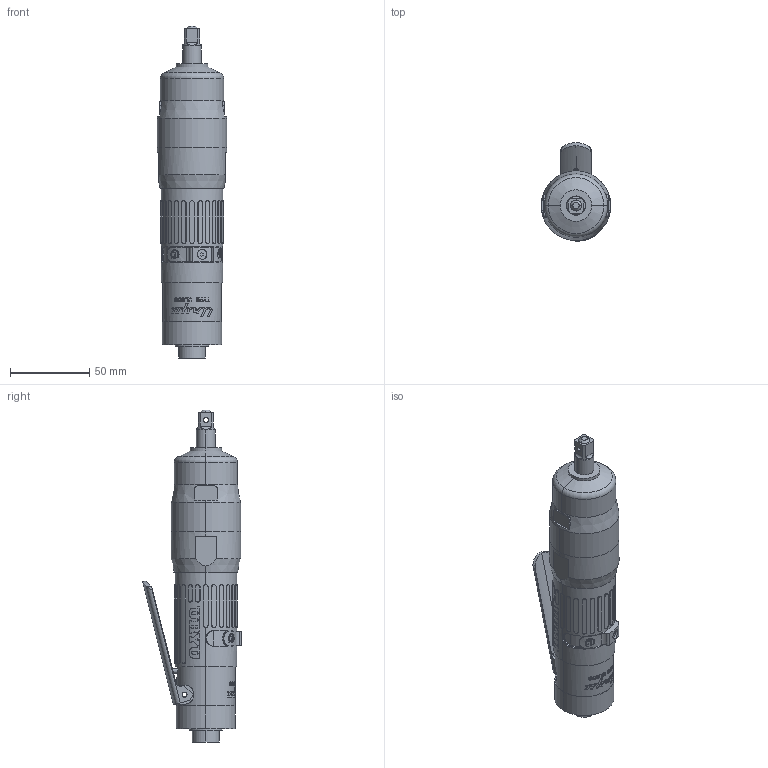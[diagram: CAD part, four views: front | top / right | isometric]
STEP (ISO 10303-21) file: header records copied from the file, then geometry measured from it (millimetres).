
FILE_DESCRIPTION (( 'STEP AP203' ), '1' );
FILE_NAME ('UL60S.step', '2006-01-30T07:47:51', ( '山田　善嗣' ), ( 'TECH' ), 'SwSTEP 2.0', 'SolidWorks 2004073', '' );
FILE_SCHEMA (( 'CONFIG_CONTROL_DESIGN' ));
Length unit declared in the file: millimetre
Products named in the file (8): 1298423_UL60S_蹬怮椔; UL60S; 9702210_UL60S_蹬怮椔; 1612123_UL60S_蹬怮椔; 1961077_UL60S_蹬怮椔; 1070252_UL60S_蹬怮椔; 1074392_UL60S_蹬怮椔; 1433196_UL60S_蹬怮椔
Assembly tree (7 placements, depth 2):
  UL60S
    1612123_UL60S_蹬怮椔
    1298423_UL60S_蹬怮椔
    1433196_UL60S_蹬怮椔
    1961077_UL60S_蹬怮椔
    1074392_UL60S_蹬怮椔
    9702210_UL60S_蹬怮椔
    1070252_UL60S_蹬怮椔
Bounding box: 44 x 62.33 x 210 mm (x, y, z)
Volume: 226016.1 mm3; surface area: 50272.4 mm2
Topology: 7 solids, 7 shells, 746 faces, 1984 edges, 1315 vertices
Faces by surface type: plane 374, cylinder 271, bspline 85, cone 8, torus 6, sphere 2
Entity records: 32432 total; most frequent: CARTESIAN_POINT 14188, ORIENTED_EDGE 3968, DIRECTION 3088, EDGE_CURVE 1984, VERTEX_POINT 1315, AXIS2_PLACEMENT_3D 1043, VECTOR 1002, LINE 1002
